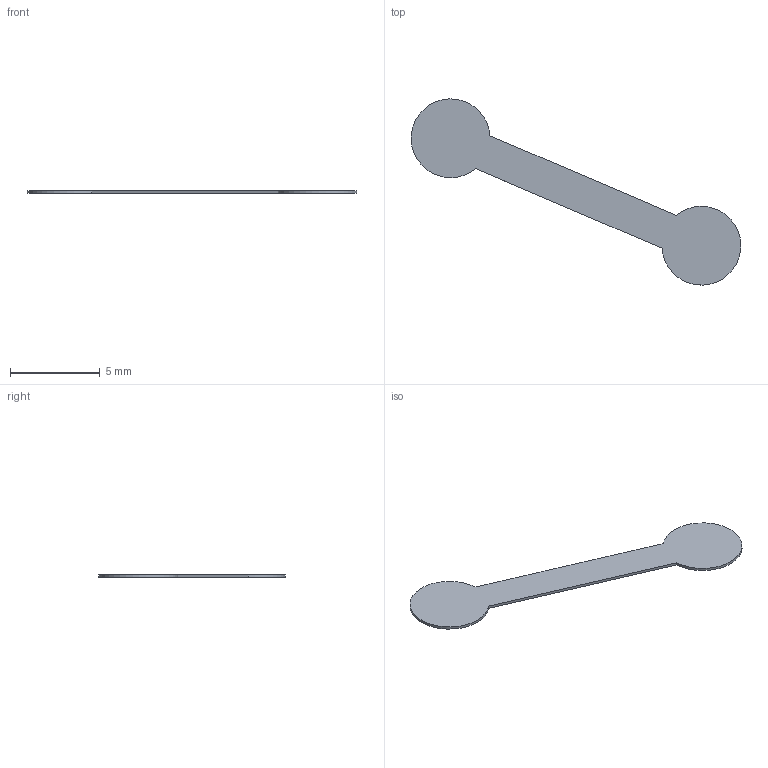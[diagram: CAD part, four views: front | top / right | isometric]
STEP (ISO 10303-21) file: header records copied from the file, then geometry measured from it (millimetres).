
FILE_DESCRIPTION(('Open CASCADE Model'),'2;1');
FILE_NAME('Open CASCADE Shape Model','2026-09-06T11:30:00',('Author'),( 'Open CASCADE'),'Open CASCADE STEP processor 7.7','Open CASCADE 7.7' ,'Unknown');
FILE_SCHEMA(('AUTOMOTIVE_DESIGN { 1 0 10303 214 1 1 1 1 }'));
Length unit declared in the file: millimetre
Products named in the file (1): Open CASCADE STEP translator 7.7 2
Bounding box: 18.4 x 10.4 x 0.15 mm (x, y, z)
Volume: 7.9 mm3; surface area: 111.7 mm2
Topology: 1 solids, 1 shells, 6 faces, 12 edges, 8 vertices
Faces by surface type: plane 4, cylinder 2
Entity records: 321 total; most frequent: CARTESIAN_POINT 65, DIRECTION 45, ORIENTED_EDGE 24, PCURVE 24, DEFINITIONAL_REPRESENTATION 24, LINE 20, VECTOR 20, EDGE_CURVE 12
